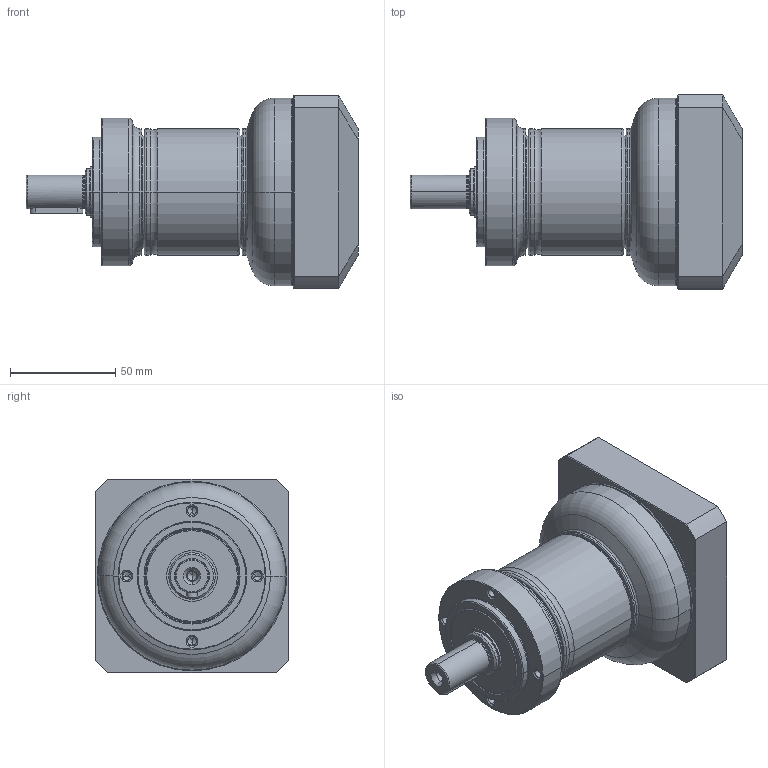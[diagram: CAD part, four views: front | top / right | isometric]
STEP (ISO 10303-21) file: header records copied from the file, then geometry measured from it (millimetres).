
FILE_DESCRIPTION((''),'2;1');
FILE_NAME('PE2-070_2ST_19-P0411400101_ASM','2017-06-01T',('d01943'),(''),'PRO/ENGINEER BY PARAMETRIC TECHNOLOGY CORPORATION, 2008410','PRO/ENGINEER BY PARAMETRIC TECHNOLOGY CORPORATION, 2008410','');
FILE_SCHEMA(('CONFIG_CONTROL_DESIGN'));
Length unit declared in the file: millimetre
Products named in the file (9): P1323210001; P0251200001; P1324200301; P0350201001; P0941203001; P0503400008; P0411400101; P1702500001; PE2-070_2ST_19-P0411400101_ASM
Assembly tree (8 placements, depth 2):
  PE2-070_2ST_19-P0411400101_ASM
    P1323210001
    P0251200001
    P1324200301
    P0350201001
    P0941203001
    P0503400008
    P0411400101
    P1702500001
Bounding box: 157.5 x 92 x 92 mm (x, y, z)
Volume: 416558.8 mm3; surface area: 111822.9 mm2
Topology: 8 solids, 8 shells, 472 faces, 1035 edges, 594 vertices
Faces by surface type: cone 138, cylinder 138, torus 102, plane 78, bspline 16
Entity records: 17658 total; most frequent: CARTESIAN_POINT 7069, DIRECTION 2415, ORIENTED_EDGE 2006, AXIS2_PLACEMENT_3D 1040, EDGE_CURVE 1003, VERTEX_POINT 594, CIRCLE 567, EDGE_LOOP 535
